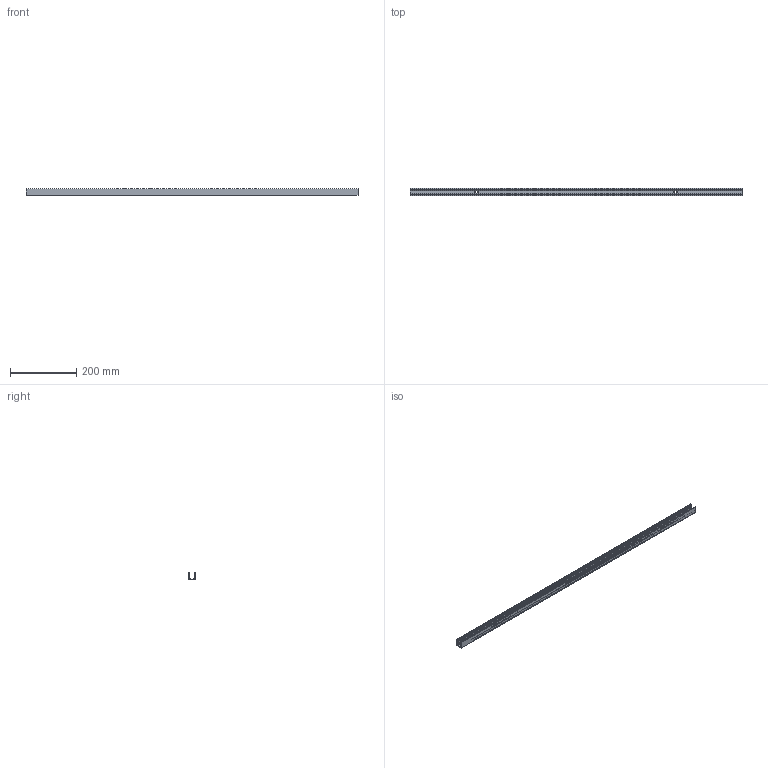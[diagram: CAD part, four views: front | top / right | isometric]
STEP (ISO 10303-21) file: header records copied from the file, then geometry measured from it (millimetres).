
FILE_DESCRIPTION(/* description */ (''),/* implementation_level */ '2;1');
FILE_NAME(/* name */ 'NF_1616_STRAIGHT_PROFILE_L1000_R01.step',/* time_stamp */ '2026-07-16T15:48:23+02:00',/* author */ (''),/* organization */ (''),/* preprocessor_version */ 'ST-DEVELOPER v20.1',/* originating_system */ 'Autodesk Translation Framework v15.8.0.0',/* authorisation */ '');
FILE_SCHEMA (('AUTOMOTIVE_DESIGN { 1 0 10303 214 3 1 1 }'));
Length unit declared in the file: millimetre
Products named in the file (1): 2026-07-16-14-34-53-596
Bounding box: 1000 x 22 x 20.8 mm (x, y, z)
Volume: 127626.3 mm3; surface area: 215725.7 mm2
Topology: 3 solids, 3 shells, 159 faces, 459 edges, 306 vertices
Faces by surface type: plane 69, bspline 64, cylinder 26
Entity records: 6359 total; most frequent: CARTESIAN_POINT 2473, ORIENTED_EDGE 918, DIRECTION 619, EDGE_CURVE 459, VERTEX_POINT 306, LINE 279, VECTOR 279, AXIS2_PLACEMENT_3D 170
